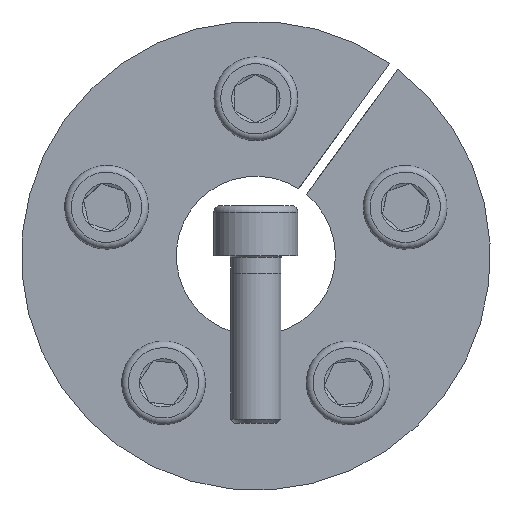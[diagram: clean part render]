
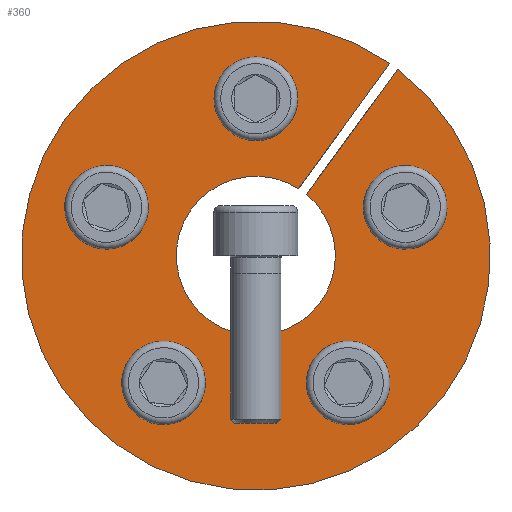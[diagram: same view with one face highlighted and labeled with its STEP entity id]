
A CAD part, front view. The second image highlights one B-rep face of the part: STEP entity #360.
In plain terms, the highlighted planar face has unit normal (0, -1, 0).
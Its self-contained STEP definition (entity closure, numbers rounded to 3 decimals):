
#360 = ADVANCED_FACE( '', ( #560, #561, #562, #563, #564, #565 ), #566, .F. );
#560 = FACE_BOUND( '', #694, .T. );
#561 = FACE_BOUND( '', #695, .T. );
#562 = FACE_BOUND( '', #696, .T. );
#563 = FACE_BOUND( '', #697, .T. );
#564 = FACE_BOUND( '', #698, .T. );
#565 = FACE_OUTER_BOUND( '', #699, .T. );
#566 = PLANE( '', #700 );
#694 = EDGE_LOOP( '', ( #867 ) );
#695 = EDGE_LOOP( '', ( #868 ) );
#696 = EDGE_LOOP( '', ( #869 ) );
#697 = EDGE_LOOP( '', ( #870 ) );
#698 = EDGE_LOOP( '', ( #871 ) );
#699 = EDGE_LOOP( '', ( #872, #873, #874, #875 ) );
#700 = AXIS2_PLACEMENT_3D( '', #876, #877, #878 );
#867 = ORIENTED_EDGE( '', *, *, #1167, .T. );
#868 = ORIENTED_EDGE( '', *, *, #1168, .T. );
#869 = ORIENTED_EDGE( '', *, *, #1169, .T. );
#870 = ORIENTED_EDGE( '', *, *, #1170, .T. );
#871 = ORIENTED_EDGE( '', *, *, #1171, .T. );
#872 = ORIENTED_EDGE( '', *, *, #1172, .T. );
#873 = ORIENTED_EDGE( '', *, *, #1173, .T. );
#874 = ORIENTED_EDGE( '', *, *, #1159, .T. );
#875 = ORIENTED_EDGE( '', *, *, #1174, .F. );
#876 = CARTESIAN_POINT( '', ( 0., 0., 28. ) );
#877 = DIRECTION( '', ( 0., 1., 0. ) );
#878 = DIRECTION( '', ( 0., 0., 1. ) );
#1159 = EDGE_CURVE( '', #1283, #1281, #1284, .T. );
#1167 = EDGE_CURVE( '', #1297, #1297, #1298, .T. );
#1168 = EDGE_CURVE( '', #1299, #1299, #1300, .T. );
#1169 = EDGE_CURVE( '', #1301, #1301, #1302, .T. );
#1170 = EDGE_CURVE( '', #1303, #1303, #1304, .T. );
#1171 = EDGE_CURVE( '', #1305, #1305, #1306, .T. );
#1172 = EDGE_CURVE( '', #1307, #1308, #1309, .T. );
#1173 = EDGE_CURVE( '', #1308, #1283, #1310, .T. );
#1174 = EDGE_CURVE( '', #1307, #1281, #1311, .T. );
#1281 = VERTEX_POINT( '', #1373 );
#1283 = VERTEX_POINT( '', #1376 );
#1284 = LINE( '', #1377, #1378 );
#1297 = VERTEX_POINT( '', #1402 );
#1298 = CIRCLE( '', #1403, 3. );
#1299 = VERTEX_POINT( '', #1404 );
#1300 = CIRCLE( '', #1405, 3. );
#1301 = VERTEX_POINT( '', #1406 );
#1302 = CIRCLE( '', #1407, 3. );
#1303 = VERTEX_POINT( '', #1408 );
#1304 = CIRCLE( '', #1409, 3. );
#1305 = VERTEX_POINT( '', #1410 );
#1306 = CIRCLE( '', #1411, 3. );
#1307 = VERTEX_POINT( '', #1412 );
#1308 = VERTEX_POINT( '', #1413 );
#1309 = LINE( '', #1414, #1415 );
#1310 = CIRCLE( '', #1416, 28. );
#1311 = CIRCLE( '', #1417, 9.5 );
#1373 = CARTESIAN_POINT( '', ( 6.049, 0., 7.326 ) );
#1376 = CARTESIAN_POINT( '', ( 16.93, 0., 22.302 ) );
#1377 = CARTESIAN_POINT( '', ( 16.933, 0., 22.307 ) );
#1378 = VECTOR( '', #1494, 1000. );
#1402 = CARTESIAN_POINT( '', ( -16.905, 0., 8.647 ) );
#1403 = AXIS2_PLACEMENT_3D( '', #1500, #1501, #1502 );
#1404 = CARTESIAN_POINT( '', ( 8.594, 0., -16.932 ) );
#1405 = AXIS2_PLACEMENT_3D( '', #1503, #1504, #1505 );
#1406 = CARTESIAN_POINT( '', ( 3., 0., 18.75 ) );
#1407 = AXIS2_PLACEMENT_3D( '', #1506, #1507, #1508 );
#1408 = CARTESIAN_POINT( '', ( 18.759, 0., 2.941 ) );
#1409 = AXIS2_PLACEMENT_3D( '', #1509, #1510, #1511 );
#1410 = CARTESIAN_POINT( '', ( -13.448, 0., -13.406 ) );
#1411 = AXIS2_PLACEMENT_3D( '', #1512, #1513, #1514 );
#1412 = CARTESIAN_POINT( '', ( 5.098, 0., 8.016 ) );
#1413 = CARTESIAN_POINT( '', ( 15.979, 0., 22.993 ) );
#1414 = CARTESIAN_POINT( '', ( 5.098, 0., 8.016 ) );
#1415 = VECTOR( '', #1515, 1000. );
#1416 = AXIS2_PLACEMENT_3D( '', #1516, #1517, #1518 );
#1417 = AXIS2_PLACEMENT_3D( '', #1519, #1520, #1521 );
#1494 = DIRECTION( '', ( -0.588, 0., -0.809 ) );
#1500 = CARTESIAN_POINT( '', ( -17.832, 0., 5.794 ) );
#1501 = DIRECTION( '', ( 0., 1., 0. ) );
#1502 = DIRECTION( '', ( 0.309, 0., 0.951 ) );
#1503 = CARTESIAN_POINT( '', ( 11.021, 0., -15.169 ) );
#1504 = DIRECTION( '', ( 0., 1., 0. ) );
#1505 = DIRECTION( '', ( -0.809, 0., -0.588 ) );
#1506 = CARTESIAN_POINT( '', ( 0., 0., 18.75 ) );
#1507 = DIRECTION( '', ( 0., 1., 0. ) );
#1508 = DIRECTION( '', ( 1., 0., 0. ) );
#1509 = CARTESIAN_POINT( '', ( 17.832, 0., 5.794 ) );
#1510 = DIRECTION( '', ( 0., 1., 0. ) );
#1511 = DIRECTION( '', ( 0.309, 0., -0.951 ) );
#1512 = CARTESIAN_POINT( '', ( -11.021, 0., -15.169 ) );
#1513 = DIRECTION( '', ( 0., 1., 0. ) );
#1514 = DIRECTION( '', ( -0.809, 0., 0.588 ) );
#1515 = DIRECTION( '', ( 0.588, 0., 0.809 ) );
#1516 = CARTESIAN_POINT( '', ( 0., 0., 0. ) );
#1517 = DIRECTION( '', ( 0., -1., 0. ) );
#1518 = DIRECTION( '', ( 0., 0., -1. ) );
#1519 = CARTESIAN_POINT( '', ( 0., 0., 0. ) );
#1520 = DIRECTION( '', ( 0., -1., 0. ) );
#1521 = DIRECTION( '', ( 0., 0., -1. ) );
